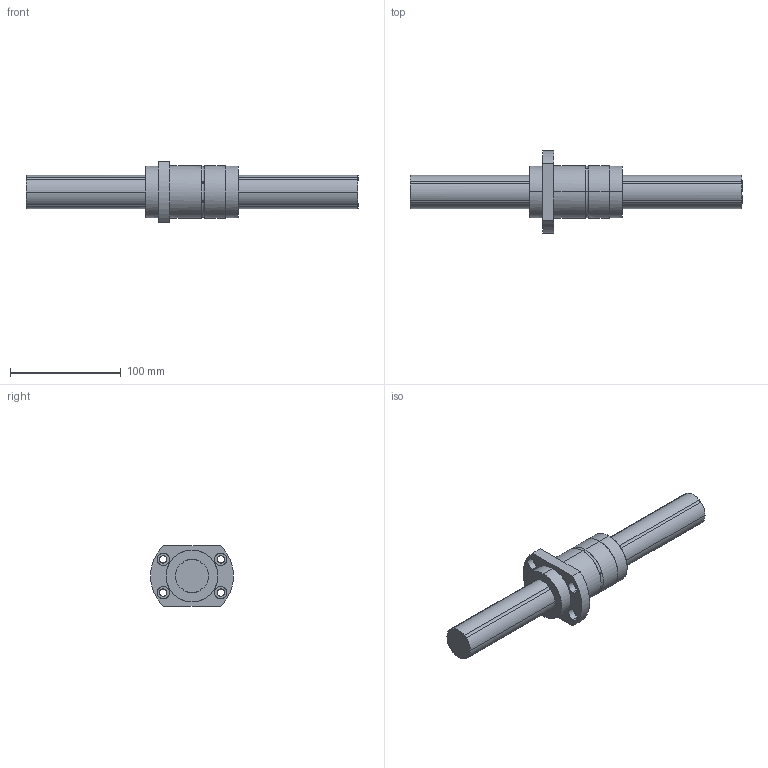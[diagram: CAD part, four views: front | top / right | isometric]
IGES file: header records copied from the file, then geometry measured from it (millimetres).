
Global section: file name: No Iges File Name specified; native system: AutoDesk Inventor R11.0; preprocessor: AutoDesk Inventor Iges Exporter R11.0; author: No Author specified; organization: No Organization specified; date: 20150223.133735; units: millimetre
Bounding box: 300 x 75 x 55 mm (x, y, z)
Surface area: 58460.2 mm2 (no closed solid volume)
Topology: 0 solids, 0 shells, 71 faces, 498 edges, 498 vertices
Faces by surface type: bspline 71
